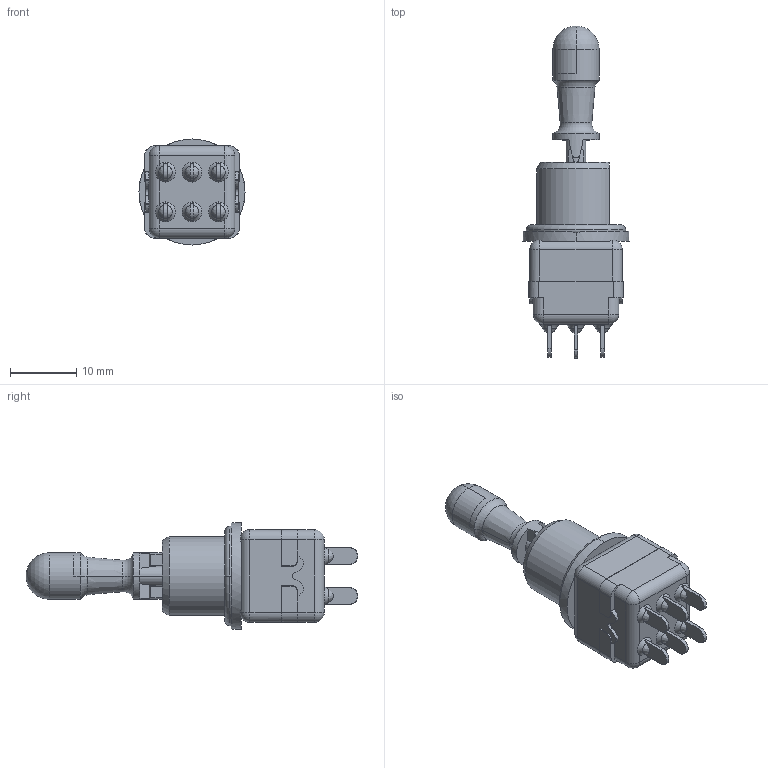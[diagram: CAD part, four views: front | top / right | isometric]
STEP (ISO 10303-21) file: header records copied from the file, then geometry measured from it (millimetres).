
FILE_DESCRIPTION((''),'2;1');
FILE_NAME('12149-3VX408','2014-12-23T',('brevel'),(''),'PRO/ENGINEER BY PARAMETRIC TECHNOLOGY CORPORATION, 2013410','PRO/ENGINEER BY PARAMETRIC TECHNOLOGY CORPORATION, 2013410','');
FILE_SCHEMA(('CONFIG_CONTROL_DESIGN'));
Length unit declared in the file: millimetre
Products named in the file (1): 12149-3VX408
Bounding box: 16 x 50.1 x 16 mm (x, y, z)
Surface area: 2814.2 mm2 (no closed solid volume)
Topology: 0 solids, 7 shells, 190 faces, 645 edges, 425 vertices
Faces by surface type: plane 82, cylinder 63, torus 20, bspline 12, sphere 10, cone 3
Entity records: 8496 total; most frequent: CARTESIAN_POINT 3059, ORIENTED_EDGE 1136, DIRECTION 1112, EDGE_CURVE 635, VERTEX_POINT 425, AXIS2_PLACEMENT_3D 413, VECTOR 286, LINE 286
